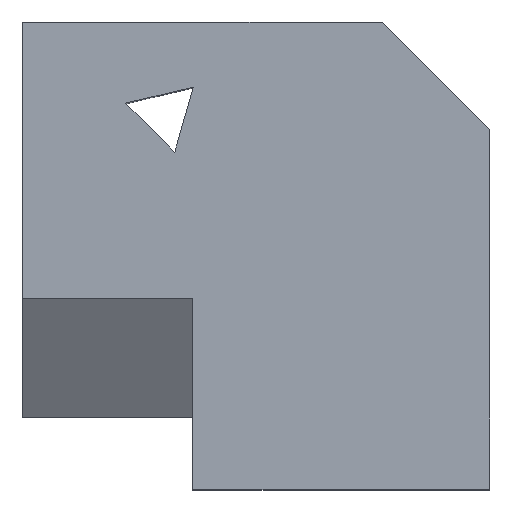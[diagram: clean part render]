
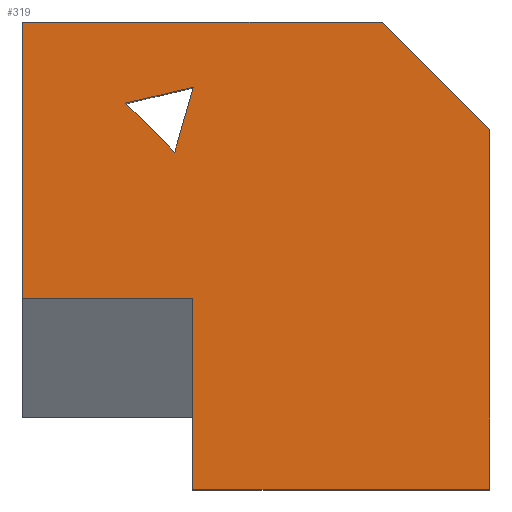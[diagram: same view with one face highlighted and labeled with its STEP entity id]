
A CAD part, top view. The second image highlights one B-rep face of the part: STEP entity #319.
In plain terms, the highlighted planar face has unit normal (0, 0, 1).
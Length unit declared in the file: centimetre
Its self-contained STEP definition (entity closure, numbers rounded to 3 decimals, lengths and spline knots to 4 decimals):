
#22 = VERTEX_POINT ( 'NONE', #348 ) ;
#34 = DIRECTION ( 'NONE',  ( -1., 0., 0. ) ) ;
#43 = CARTESIAN_POINT ( 'NONE',  ( 0., 0., 1000. ) ) ;
#44 = LINE ( 'NONE', #406, #381 ) ;
#56 = DIRECTION ( 'NONE',  ( 0.273, 0.962, 0. ) ) ;
#59 = DIRECTION ( 'NONE',  ( 0., 0., 1. ) ) ;
#66 = CARTESIAN_POINT ( 'NONE',  ( 364.7589, 409.2261, 1000. ) ) ;
#67 = DIRECTION ( 'NONE',  ( 0.707, -0.707, 0. ) ) ;
#68 = DIRECTION ( 'NONE',  ( 0., -1., 0. ) ) ;
#76 = VERTEX_POINT ( 'NONE', #465 ) ;
#89 = VECTOR ( 'NONE', #34, 100. ) ;
#93 = CARTESIAN_POINT ( 'NONE',  ( 1000., 1000., 1000. ) ) ;
#98 = VERTEX_POINT ( 'NONE', #460 ) ;
#105 = EDGE_CURVE ( 'NONE', #76, #223, #158, .T. ) ;
#107 = VECTOR ( 'NONE', #56, 100. ) ;
#112 = LINE ( 'NONE', #93, #495 ) ;
#113 = EDGE_LOOP ( 'NONE', ( #169, #314, #252, #117, #536, #400, #387 ) ) ;
#117 = ORIENTED_EDGE ( 'NONE', *, *, #369, .T. ) ;
#122 = LINE ( 'NONE', #288, #131 ) ;
#131 = VECTOR ( 'NONE', #483, 100. ) ;
#134 = CARTESIAN_POINT ( 'NONE',  ( 365.5725, 860.591, 1000. ) ) ;
#139 = AXIS2_PLACEMENT_3D ( 'NONE', #329, #59, #407 ) ;
#145 = VERTEX_POINT ( 'NONE', #66 ) ;
#147 = PLANE ( 'NONE',  #139 ) ;
#156 = EDGE_CURVE ( 'NONE', #359, #22, #166, .T. ) ;
#158 = LINE ( 'NONE', #338, #558 ) ;
#166 = LINE ( 'NONE', #208, #172 ) ;
#169 = ORIENTED_EDGE ( 'NONE', *, *, #574, .F. ) ;
#172 = VECTOR ( 'NONE', #290, 100. ) ;
#193 = FACE_OUTER_BOUND ( 'NONE', #113, .T. ) ;
#194 = DIRECTION ( 'NONE',  ( 0., 1., 0. ) ) ;
#208 = CARTESIAN_POINT ( 'NONE',  ( 885.2234, 885.2234, 1000. ) ) ;
#223 = VERTEX_POINT ( 'NONE', #229 ) ;
#229 = CARTESIAN_POINT ( 'NONE',  ( 0., 409.2261, 1000. ) ) ;
#230 = EDGE_CURVE ( 'NONE', #467, #145, #278, .T. ) ;
#252 = ORIENTED_EDGE ( 'NONE', *, *, #545, .T. ) ;
#264 = EDGE_CURVE ( 'NONE', #309, #393, #275, .T. ) ;
#275 = LINE ( 'NONE', #458, #107 ) ;
#278 = LINE ( 'NONE', #323, #311 ) ;
#288 = CARTESIAN_POINT ( 'NONE',  ( 365.5725, 860.591, 1000. ) ) ;
#290 = DIRECTION ( 'NONE',  ( -0.707, 0.707, 0. ) ) ;
#292 = CARTESIAN_POINT ( 'NONE',  ( 364.7589, 0., 1000. ) ) ;
#295 = EDGE_LOOP ( 'NONE', ( #394, #336, #397 ) ) ;
#309 = VERTEX_POINT ( 'NONE', #377 ) ;
#311 = VECTOR ( 'NONE', #194, 100. ) ;
#313 = DIRECTION ( 'NONE',  ( 1., 0., 0. ) ) ;
#314 = ORIENTED_EDGE ( 'NONE', *, *, #230, .F. ) ;
#315 = CARTESIAN_POINT ( 'NONE',  ( 364.7589, 409.2261, 1000. ) ) ;
#319 = ADVANCED_FACE ( 'NONE', ( #193, #379 ), #147, .T. ) ;
#323 = CARTESIAN_POINT ( 'NONE',  ( 364.7589, 0., 1000. ) ) ;
#329 = CARTESIAN_POINT ( 'NONE',  ( 0., 0., 1000. ) ) ;
#336 = ORIENTED_EDGE ( 'NONE', *, *, #264, .F. ) ;
#337 = CARTESIAN_POINT ( 'NONE',  ( 1000., 770.4468, 1000. ) ) ;
#338 = CARTESIAN_POINT ( 'NONE',  ( 0., 1000., 1000. ) ) ;
#346 = CARTESIAN_POINT ( 'NONE',  ( 221.3978, 826.3063, 1000. ) ) ;
#348 = CARTESIAN_POINT ( 'NONE',  ( 770.4468, 1000., 1000. ) ) ;
#359 = VERTEX_POINT ( 'NONE', #337 ) ;
#363 = VECTOR ( 'NONE', #67, 100. ) ;
#366 = DIRECTION ( 'NONE',  ( -1., 0., 0. ) ) ;
#369 = EDGE_CURVE ( 'NONE', #98, #359, #112, .T. ) ;
#371 = LINE ( 'NONE', #43, #592 ) ;
#377 = CARTESIAN_POINT ( 'NONE',  ( 326.1455, 721.5586, 1000. ) ) ;
#379 = FACE_BOUND ( 'NONE', #295, .T. ) ;
#381 = VECTOR ( 'NONE', #366, 100. ) ;
#385 = EDGE_CURVE ( 'NONE', #22, #76, #44, .T. ) ;
#387 = ORIENTED_EDGE ( 'NONE', *, *, #105, .T. ) ;
#393 = VERTEX_POINT ( 'NONE', #134 ) ;
#394 = ORIENTED_EDGE ( 'NONE', *, *, #489, .F. ) ;
#397 = ORIENTED_EDGE ( 'NONE', *, *, #468, .F. ) ;
#400 = ORIENTED_EDGE ( 'NONE', *, *, #385, .T. ) ;
#406 = CARTESIAN_POINT ( 'NONE',  ( 0., 1000., 1000. ) ) ;
#407 = DIRECTION ( 'NONE',  ( 1., 0., 0. ) ) ;
#447 = LINE ( 'NONE', #315, #89 ) ;
#458 = CARTESIAN_POINT ( 'NONE',  ( 326.1455, 721.5586, 1000. ) ) ;
#460 = CARTESIAN_POINT ( 'NONE',  ( 1000., 0., 1000. ) ) ;
#465 = CARTESIAN_POINT ( 'NONE',  ( 0., 1000., 1000. ) ) ;
#467 = VERTEX_POINT ( 'NONE', #292 ) ;
#468 = EDGE_CURVE ( 'NONE', #552, #309, #533, .T. ) ;
#483 = DIRECTION ( 'NONE',  ( -0.973, -0.231, 0. ) ) ;
#489 = EDGE_CURVE ( 'NONE', #393, #552, #122, .T. ) ;
#491 = DIRECTION ( 'NONE',  ( 0., 1., 0. ) ) ;
#495 = VECTOR ( 'NONE', #491, 100. ) ;
#508 = CARTESIAN_POINT ( 'NONE',  ( 221.3978, 826.3063, 1000. ) ) ;
#533 = LINE ( 'NONE', #346, #363 ) ;
#536 = ORIENTED_EDGE ( 'NONE', *, *, #156, .T. ) ;
#545 = EDGE_CURVE ( 'NONE', #467, #98, #371, .T. ) ;
#552 = VERTEX_POINT ( 'NONE', #508 ) ;
#558 = VECTOR ( 'NONE', #68, 100. ) ;
#574 = EDGE_CURVE ( 'NONE', #145, #223, #447, .T. ) ;
#592 = VECTOR ( 'NONE', #313, 100. ) ;
